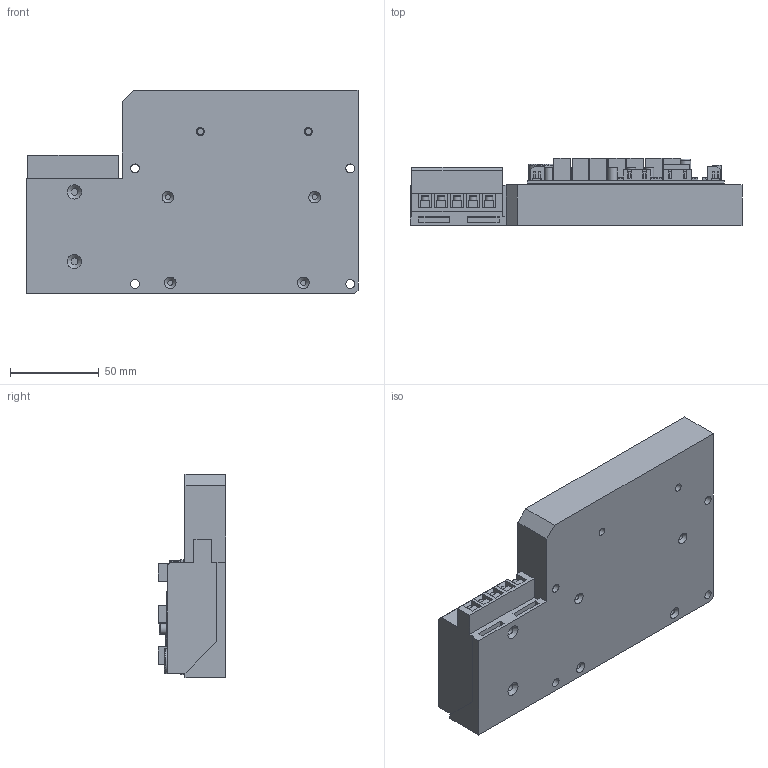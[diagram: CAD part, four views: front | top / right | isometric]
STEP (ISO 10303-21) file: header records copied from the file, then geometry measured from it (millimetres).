
FILE_DESCRIPTION((''),'2;1');
FILE_NAME('O:\Backup - WAIZE Prototyping Server\Projekte\Projekt ATLAS GEN5\GEN5B3 3D Modell V1.stp','2023-03-15T11:39:45',('admin'),(''),'Autodesk Inventor 2013','Autodesk Inventor 2013','');
FILE_SCHEMA(('AUTOMOTIVE_DESIGN { 1 0 10303 214 1 1 1 1 }'));
Length unit declared in the file: millimetre
Products named in the file (1): GEN5B3 3D Modell V1
Bounding box: 186.78 x 38.1 x 114.29 mm (x, y, z)
Volume: 252940.7 mm3; surface area: 151068.2 mm2
Topology: 1 solids, 4 shells, 1806 faces, 4208 edges, 2792 vertices
Faces by surface type: plane 1552, cylinder 153, cone 97, torus 4
Full cylindrical faces by diameter (mm): 1 x106, 2.038 x1, 3 x7, 3.5 x2, 4 x7, 4.5 x2, 5 x4, 5.5 x2, 6.057 x1, 14.019 x1
Entity records: 49696 total; most frequent: CARTESIAN_POINT 8555, DIRECTION 7997, ORIENTED_EDGE 7912, EDGE_CURVE 3956, VECTOR 3565, LINE 3565, VERTEX_POINT 2758, EDGE_LOOP 2428
